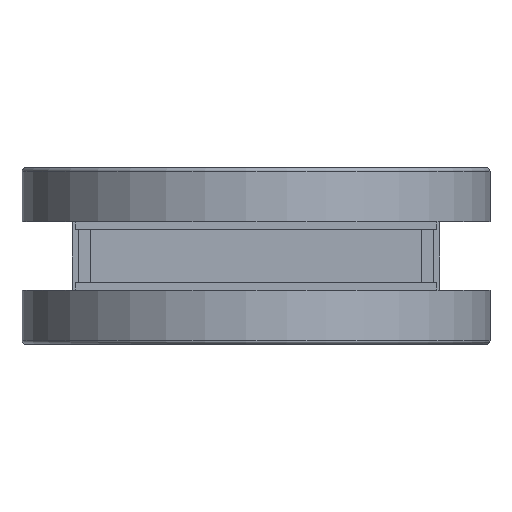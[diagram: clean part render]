
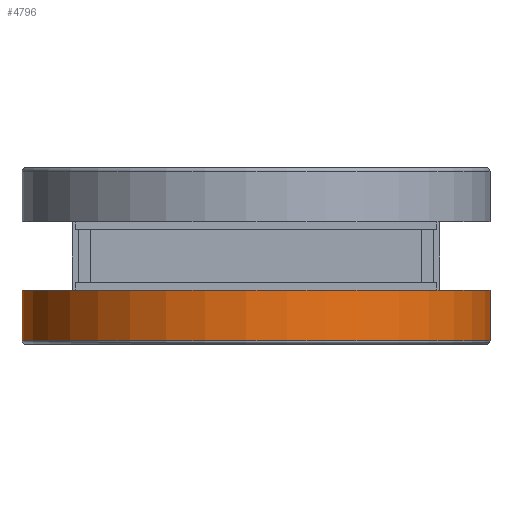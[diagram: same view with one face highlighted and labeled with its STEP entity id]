
A CAD part, front view. The second image highlights one B-rep face of the part: STEP entity #4796.
In plain terms, the highlighted cylindrical face has radius 92.5 mm (diameter 185 mm), a full revolution.
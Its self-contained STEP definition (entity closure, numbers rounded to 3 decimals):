
#4796=ADVANCED_FACE('',(#5930,#5931),#5260,.T.);
#5260=CYLINDRICAL_SURFACE('',#14142,92.5);
#5504=CIRCLE('',#14138,92.5);
#5506=CIRCLE('',#14141,92.5);
#5930=FACE_BOUND('',#6568,.T.);
#5931=FACE_BOUND('',#6569,.T.);
#6568=EDGE_LOOP('',(#9542));
#6569=EDGE_LOOP('',(#9543));
#9542=ORIENTED_EDGE('',*,*,#12836,.F.);
#9543=ORIENTED_EDGE('',*,*,#12834,.T.);
#11698=VERTEX_POINT('',#18918);
#11700=VERTEX_POINT('',#18923);
#12834=EDGE_CURVE('',#11698,#11698,#5504,.T.);
#12836=EDGE_CURVE('',#11700,#11700,#5506,.T.);
#14138=AXIS2_PLACEMENT_3D('',#18917,#15797,#15798);
#14141=AXIS2_PLACEMENT_3D('',#18922,#15803,#15804);
#14142=AXIS2_PLACEMENT_3D('',#18924,#15805,#15806);
#15797=DIRECTION('',(1.,0.,0.));
#15798=DIRECTION('',(0.,1.,0.));
#15803=DIRECTION('',(1.,0.,0.));
#15804=DIRECTION('',(0.,1.,0.));
#15805=DIRECTION('',(1.,0.,0.));
#15806=DIRECTION('',(0.,1.,0.));
#18917=CARTESIAN_POINT('',(1.5,0.,0.));
#18918=CARTESIAN_POINT('',(1.5,92.5,0.));
#18922=CARTESIAN_POINT('',(21.4,0.,0.));
#18923=CARTESIAN_POINT('',(21.4,92.5,0.));
#18924=CARTESIAN_POINT('',(21.4,0.,0.));
